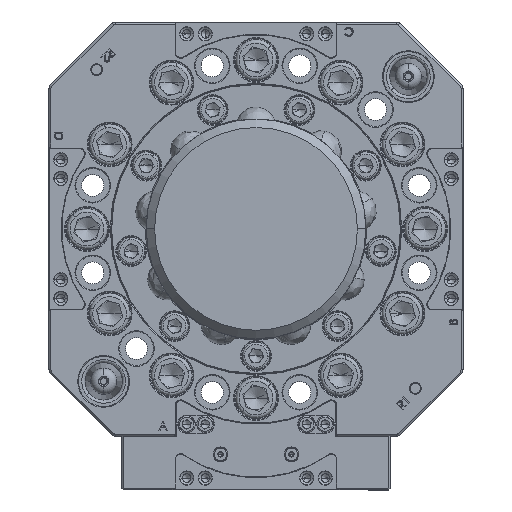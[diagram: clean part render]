
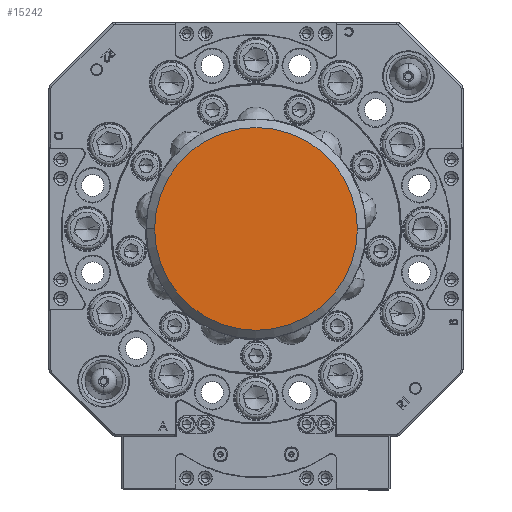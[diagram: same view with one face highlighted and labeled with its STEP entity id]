
A CAD part, top view. The second image highlights one B-rep face of the part: STEP entity #15242.
In plain terms, the highlighted planar face has unit normal (0, 0, -1).
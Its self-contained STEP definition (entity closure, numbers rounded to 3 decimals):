
#4319 = DIRECTION ( 'NONE',  ( 0., 0., -1. ) ) ;
#7758 = CIRCLE ( 'NONE', #41720, 60. ) ;
#11128 = CIRCLE ( 'NONE', #65152, 60. ) ;
#13542 = VERTEX_POINT ( 'NONE', #111519 ) ;
#15242 = ADVANCED_FACE ( 'NONE', ( #69087 ), #71472, .F. ) ;
#25832 = DIRECTION ( 'NONE',  ( 1., 0., 0. ) ) ;
#34685 = CARTESIAN_POINT ( 'NONE',  ( -8.509, -48.256, 45. ) ) ;
#41720 = AXIS2_PLACEMENT_3D ( 'NONE', #59491, #4319, #68807 ) ;
#45553 = EDGE_LOOP ( 'NONE', ( #110369, #116924 ) ) ;
#54861 = CARTESIAN_POINT ( 'NONE',  ( 0., 0., 45. ) ) ;
#59491 = CARTESIAN_POINT ( 'NONE',  ( 0., 0., 45. ) ) ;
#64154 = DIRECTION ( 'NONE',  ( -1., 0., 0. ) ) ;
#64355 = AXIS2_PLACEMENT_3D ( 'NONE', #34685, #81184, #25832 ) ;
#65152 = AXIS2_PLACEMENT_3D ( 'NONE', #54861, #119367, #64154 ) ;
#68807 = DIRECTION ( 'NONE',  ( -1., 0., 0. ) ) ;
#69087 = FACE_OUTER_BOUND ( 'NONE', #45553, .T. ) ;
#70865 = CARTESIAN_POINT ( 'NONE',  ( -60., 0., 45. ) ) ;
#71472 = PLANE ( 'NONE',  #64355 ) ;
#81184 = DIRECTION ( 'NONE',  ( 0., 0., 1. ) ) ;
#90441 = EDGE_CURVE ( 'NONE', #13542, #112338, #7758, .T. ) ;
#110369 = ORIENTED_EDGE ( 'NONE', *, *, #111694, .T. ) ;
#111519 = CARTESIAN_POINT ( 'NONE',  ( 60., 0., 45. ) ) ;
#111694 = EDGE_CURVE ( 'NONE', #112338, #13542, #11128, .T. ) ;
#112338 = VERTEX_POINT ( 'NONE', #70865 ) ;
#116924 = ORIENTED_EDGE ( 'NONE', *, *, #90441, .T. ) ;
#119367 = DIRECTION ( 'NONE',  ( 0., 0., -1. ) ) ;
